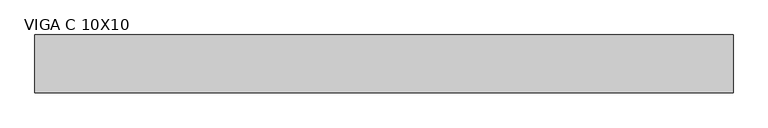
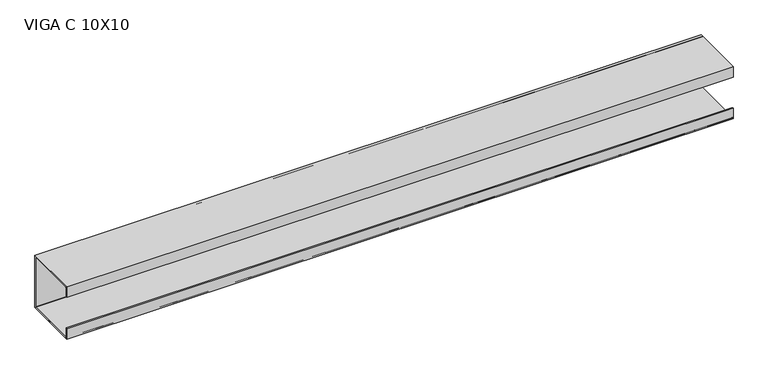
"""IFC4 building model written with IfcOpenShell, lengths in millimetres: beam geometry, VIGA PERFIL C AÇO : VIGA C 10X10."""

from ifc_helpers import new_model, si_unit, point, frame, frame_2d, origin, place, context, project, spatial, polyline, circle_curve, trimmed, segment, composite_curve, outline, extrude, source, transform, mapped, element, save


def viga_c_10x10_c70f78b9(model_context):
    return source(origin(), model_context, "Body", "SweptSolid", [
        extrude(outline(polyline([(9.2, -50.0), (-90.8, -50.0), (-90.8, -30.0), (-88.9, -30.0), (-88.9, -48.1), (7.3, -48.1), (7.3, 48.1), (-88.9, 48.1), (-88.9, 30.0), (-90.8, 30.0), (-90.8, 50.0), (9.2, 50.0), (9.2, -50.0)])), frame((-610.0, 0.0, 0.0), z_axis=(1.0, 0.0, 0.0), x_axis=(0.0, 1.0, 0.0)), (0.0, 0.0, 1.0), 1205.0),
        extrude(outline(composite_curve([segment(trimmed(circle_curve(frame_2d((5.4, -46.2)), 3.8), [point((9.2, -46.2))], [point((5.4, -50.0))], False, "CARTESIAN"), True, "CONTINUOUS"), segment(polyline([(5.4, -50.0), (-87.0, -50.0)]), True, "CONTINUOUS"), segment(trimmed(circle_curve(frame_2d((-87.0, -46.2)), 3.8), [point((-87.0, -50.0))], [point((-90.8, -46.2))], False, "CARTESIAN"), True, "CONTINUOUS"), segment(polyline([(-90.8, -46.2), (-90.8, -30.0), (-88.9, -30.0), (-88.9, -46.2)]), True, "CONTINUOUS"), segment(trimmed(circle_curve(frame_2d((-87.0, -46.2)), 1.9), [point((-88.9, -46.2))], [point((-87.0, -48.1))], True, "CARTESIAN"), True, "CONTINUOUS"), segment(polyline([(-87.0, -48.1), (5.4, -48.1)]), True, "CONTINUOUS"), segment(trimmed(circle_curve(frame_2d((5.4, -46.2)), 1.9), [point((5.4, -48.1))], [point((7.3, -46.2))], True, "CARTESIAN"), True, "CONTINUOUS"), segment(polyline([(7.3, -46.2), (7.3, 46.2)]), True, "CONTINUOUS"), segment(trimmed(circle_curve(frame_2d((5.4, 46.2)), 1.9), [point((7.3, 46.2))], [point((5.4, 48.1))], True, "CARTESIAN"), True, "CONTINUOUS"), segment(polyline([(5.4, 48.1), (-87.0, 48.1)]), True, "CONTINUOUS"), segment(trimmed(circle_curve(frame_2d((-87.0, 46.2)), 1.9), [point((-87.0, 48.1))], [point((-88.9, 46.2))], True, "CARTESIAN"), True, "CONTINUOUS"), segment(polyline([(-88.9, 46.2), (-88.9, 30.0), (-90.8, 30.0), (-90.8, 46.2)]), True, "CONTINUOUS"), segment(trimmed(circle_curve(frame_2d((-87.0, 46.2)), 3.8), [point((-90.8, 46.2))], [point((-87.0, 50.0))], False, "CARTESIAN"), True, "CONTINUOUS"), segment(polyline([(-87.0, 50.0), (5.4, 50.0)]), True, "CONTINUOUS"), segment(trimmed(circle_curve(frame_2d((5.4, 46.2)), 3.8), [point((5.4, 50.0))], [point((9.2, 46.2))], False, "CARTESIAN"), True, "CONTINUOUS"), segment(polyline([(9.2, 46.2), (9.2, -46.2)]), True, "CONTINUOUS")], self_intersect=False)), frame((-610.0, 0.0, 0.0), z_axis=(1.0, 0.0, 0.0), x_axis=(0.0, 1.0, 0.0)), (0.0, 0.0, 1.0), 1205.0),
    ])


if __name__ == "__main__":
    model = new_model("IFC4")
    model_context = context("Model", 3, world=origin())
    ifc_project = project(units=[si_unit("LENGTHUNIT", "METRE", prefix="MILLI")], contexts=[model_context])
    site = spatial("IfcSite", under=ifc_project)
    building = spatial("IfcBuilding", under=site)
    placement = place(None, origin())
    viga_c_10x10_shape = viga_c_10x10_c70f78b9(model_context)
    element("IfcBeam", 1, ObjectType="VIGA PERFIL C AÇO : VIGA C 10X10", at=placement, inside=building, context=model_context, shape_type="MappedRepresentation", body=[
        mapped(viga_c_10x10_shape, transform((0.0, 0.0, 0.0), x_axis=(1.0, 0.0, 0.0), y_axis=(0.0, 1.0, 0.0), z_axis=(0.0, 0.0, 1.0))),
    ])
    save(model, "model.ifc")
